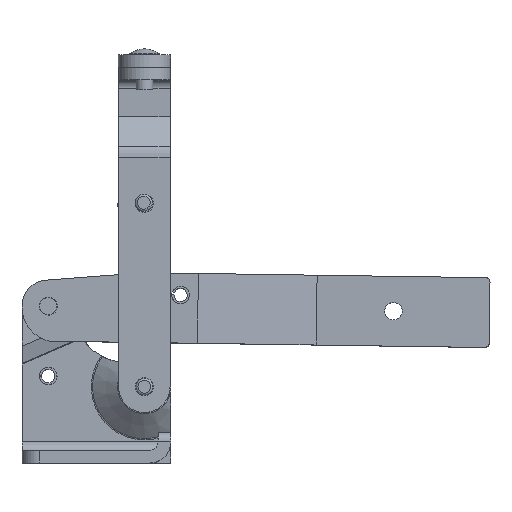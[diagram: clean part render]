
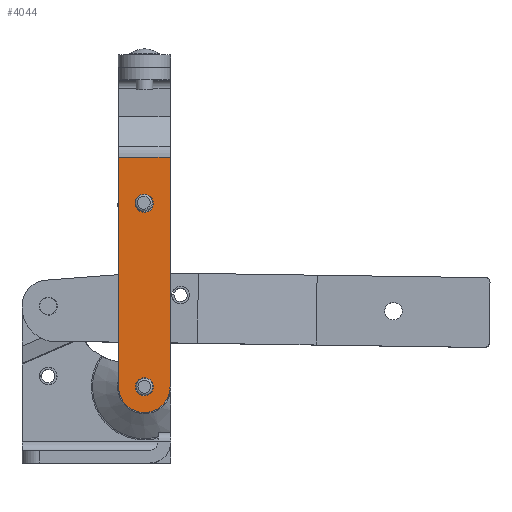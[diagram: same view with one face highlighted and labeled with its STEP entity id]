
A CAD part, top view. The second image highlights one B-rep face of the part: STEP entity #4044.
In plain terms, the highlighted planar face has unit normal (0, 0, 1).
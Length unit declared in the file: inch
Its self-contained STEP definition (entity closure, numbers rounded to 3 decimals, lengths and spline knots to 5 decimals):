
#61=LINE('',#6257,#333);
#71=LINE('',#6288,#343);
#83=LINE('',#6316,#355);
#333=VECTOR('',#4919,1.64392);
#343=VECTOR('',#4947,1.64392);
#355=VECTOR('',#4983,0.368);
#643=PLANE('',#4358);
#905=FACE_BOUND('',#1338,.T.);
#906=FACE_BOUND('',#1339,.T.);
#1056=FACE_OUTER_BOUND('',#1337,.T.);
#1337=EDGE_LOOP('',(#3030,#3031,#3032,#3033));
#1338=EDGE_LOOP('',(#3034));
#1339=EDGE_LOOP('',(#3035));
#1689=CIRCLE('',#4324,0.064);
#1691=CIRCLE('',#4327,0.064);
#1700=CIRCLE('',#4341,0.184);
#1939=VERTEX_POINT('',#6220);
#1941=VERTEX_POINT('',#6225);
#1954=VERTEX_POINT('',#6254);
#1955=VERTEX_POINT('',#6256);
#1961=VERTEX_POINT('',#6272);
#1967=VERTEX_POINT('',#6286);
#2351=EDGE_CURVE('',#1939,#1939,#1689,.T.);
#2353=EDGE_CURVE('',#1941,#1941,#1691,.T.);
#2367=EDGE_CURVE('',#1955,#1954,#61,.T.);
#2375=EDGE_CURVE('',#1954,#1961,#1700,.T.);
#2383=EDGE_CURVE('',#1967,#1961,#71,.T.);
#2397=EDGE_CURVE('',#1967,#1955,#83,.T.);
#3030=ORIENTED_EDGE('',*,*,#2375,.T.);
#3031=ORIENTED_EDGE('',*,*,#2383,.F.);
#3032=ORIENTED_EDGE('',*,*,#2397,.T.);
#3033=ORIENTED_EDGE('',*,*,#2367,.T.);
#3034=ORIENTED_EDGE('',*,*,#2353,.T.);
#3035=ORIENTED_EDGE('',*,*,#2351,.T.);
#4044=ADVANCED_FACE('',(#1056,#905,#906),#643,.T.);
#4324=AXIS2_PLACEMENT_3D('',#6221,#4886,#4887);
#4327=AXIS2_PLACEMENT_3D('',#6226,#4892,#4893);
#4341=AXIS2_PLACEMENT_3D('',#6273,#4933,#4934);
#4358=AXIS2_PLACEMENT_3D('',#6317,#4984,#4985);
#4886=DIRECTION('center_axis',(0.,0.,
-1.));
#4887=DIRECTION('ref_axis',(0.,-1.,0.));
#4892=DIRECTION('center_axis',(0.,0.,
-1.));
#4893=DIRECTION('ref_axis',(0.,-1.,0.));
#4919=DIRECTION('',(0.,-1.,0.));
#4933=DIRECTION('center_axis',(0.,0.,
1.));
#4934=DIRECTION('ref_axis',(-1.,0.,0.));
#4947=DIRECTION('',(0.,-1.,0.));
#4983=DIRECTION('',(-1.,0.,0.));
#4984=DIRECTION('center_axis',(0.,0.,
1.));
#4985=DIRECTION('ref_axis',(1.,0.,0.));
#6220=CARTESIAN_POINT('',(10.60451,8.33234,0.4071));
#6221=CARTESIAN_POINT('Origin',(10.60451,8.26834,0.4071));
#6225=CARTESIAN_POINT('',(10.60451,9.64464,0.4071));
#6226=CARTESIAN_POINT('Origin',(10.60451,9.58064,0.4071));
#6254=CARTESIAN_POINT('',(10.42051,8.26834,0.4071));
#6256=CARTESIAN_POINT('',(10.42051,9.91226,0.4071));
#6257=CARTESIAN_POINT('',(10.42051,9.91226,0.4071));
#6272=CARTESIAN_POINT('',(10.78851,8.26834,0.4071));
#6273=CARTESIAN_POINT('Origin',(10.60451,8.26834,0.4071));
#6286=CARTESIAN_POINT('',(10.78851,9.91226,0.4071));
#6288=CARTESIAN_POINT('',(10.78851,9.91226,0.4071));
#6316=CARTESIAN_POINT('',(10.78851,9.91226,0.4071));
#6317=CARTESIAN_POINT('Origin',(10.78851,9.91226,0.4071));
